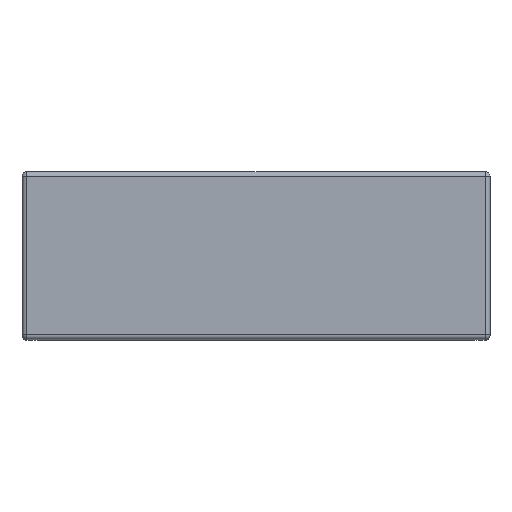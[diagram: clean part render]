
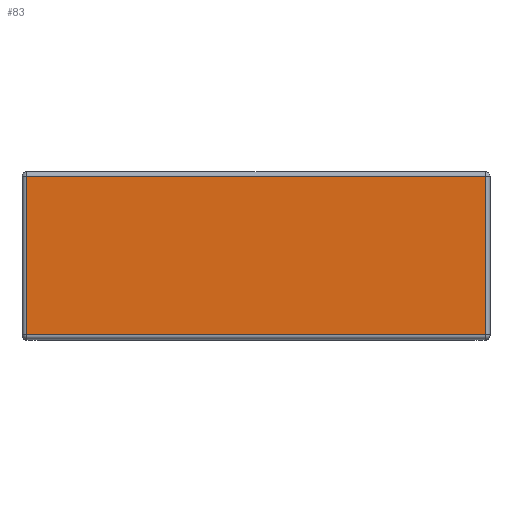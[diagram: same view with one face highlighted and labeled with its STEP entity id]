
A CAD part, top view. The second image highlights one B-rep face of the part: STEP entity #83.
In plain terms, the highlighted planar face has unit normal (0, 0, 1).
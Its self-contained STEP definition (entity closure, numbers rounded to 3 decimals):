
#83 = ADVANCED_FACE ( 'NONE', ( #11368 ), #1614, .T. ) ;
#224 = LINE ( 'NONE', #2430, #9724 ) ;
#256 = VECTOR ( 'NONE', #20277, 1000. ) ;
#441 = LINE ( 'NONE', #6473, #10128 ) ;
#514 = ORIENTED_EDGE ( 'NONE', *, *, #14790, .T. ) ;
#554 = VERTEX_POINT ( 'NONE', #10704 ) ;
#592 = EDGE_LOOP ( 'NONE', ( #11576, #3139, #20890, #514 ) ) ;
#879 = VERTEX_POINT ( 'NONE', #14632 ) ;
#1614 = PLANE ( 'NONE',  #5412 ) ;
#2430 = CARTESIAN_POINT ( 'NONE',  ( -9.75, 3.3, 5. ) ) ;
#3139 = ORIENTED_EDGE ( 'NONE', *, *, #17176, .T. ) ;
#5123 = CARTESIAN_POINT ( 'NONE',  ( -9.55, -3.5, 5. ) ) ;
#5412 = AXIS2_PLACEMENT_3D ( 'NONE', #23463, #6347, #10232 ) ;
#6164 = VERTEX_POINT ( 'NONE', #22485 ) ;
#6347 = DIRECTION ( 'NONE',  ( 0., 0., 1. ) ) ;
#6473 = CARTESIAN_POINT ( 'NONE',  ( 9.75, -3.3, 5. ) ) ;
#7071 = LINE ( 'NONE', #5123, #18408 ) ;
#9724 = VECTOR ( 'NONE', #12431, 1000. ) ;
#10128 = VECTOR ( 'NONE', #10229, 1000. ) ;
#10229 = DIRECTION ( 'NONE',  ( 1., 0., 0. ) ) ;
#10232 = DIRECTION ( 'NONE',  ( 1., 0., 0. ) ) ;
#10383 = CARTESIAN_POINT ( 'NONE',  ( -9.55, -3.3, 5. ) ) ;
#10704 = CARTESIAN_POINT ( 'NONE',  ( 9.55, 3.3, 5. ) ) ;
#11368 = FACE_OUTER_BOUND ( 'NONE', #592, .T. ) ;
#11576 = ORIENTED_EDGE ( 'NONE', *, *, #24386, .T. ) ;
#12388 = LINE ( 'NONE', #17962, #256 ) ;
#12431 = DIRECTION ( 'NONE',  ( -1., 0., 0. ) ) ;
#14632 = CARTESIAN_POINT ( 'NONE',  ( -9.55, 3.3, 5. ) ) ;
#14683 = EDGE_CURVE ( 'NONE', #16182, #6164, #441, .T. ) ;
#14790 = EDGE_CURVE ( 'NONE', #6164, #554, #12388, .T. ) ;
#16182 = VERTEX_POINT ( 'NONE', #10383 ) ;
#17176 = EDGE_CURVE ( 'NONE', #879, #16182, #7071, .T. ) ;
#17962 = CARTESIAN_POINT ( 'NONE',  ( 9.55, 3.5, 5. ) ) ;
#18408 = VECTOR ( 'NONE', #24397, 1000. ) ;
#20277 = DIRECTION ( 'NONE',  ( 0., 1., 0. ) ) ;
#20890 = ORIENTED_EDGE ( 'NONE', *, *, #14683, .T. ) ;
#22485 = CARTESIAN_POINT ( 'NONE',  ( 9.55, -3.3, 5. ) ) ;
#23463 = CARTESIAN_POINT ( 'NONE',  ( 0., 0., 5. ) ) ;
#24386 = EDGE_CURVE ( 'NONE', #554, #879, #224, .T. ) ;
#24397 = DIRECTION ( 'NONE',  ( 0., -1., 0. ) ) ;
